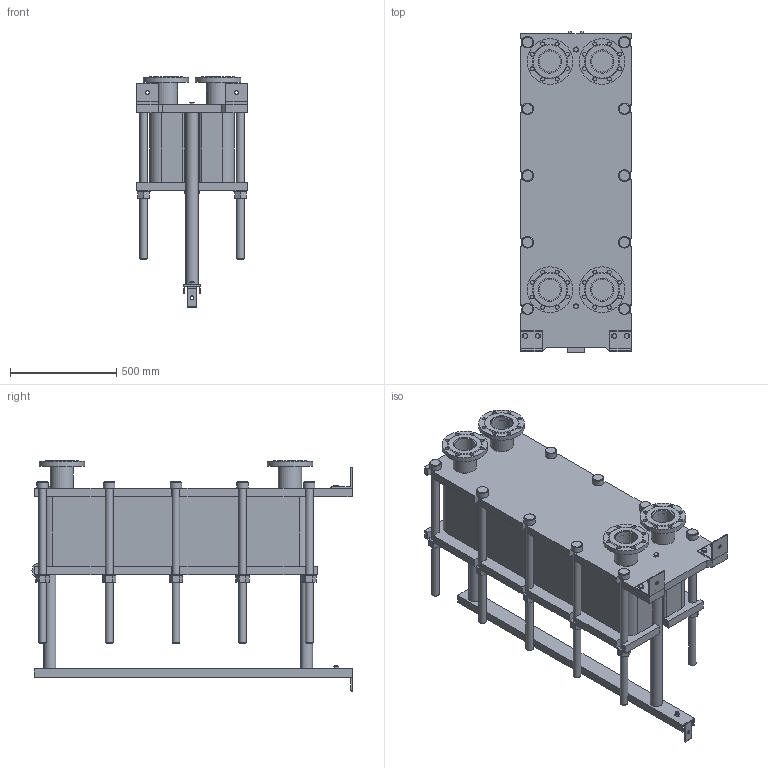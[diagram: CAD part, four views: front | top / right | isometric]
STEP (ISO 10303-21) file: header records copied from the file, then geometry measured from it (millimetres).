
FILE_DESCRIPTION(/* description */ (''),/* implementation_level */ '2;1');
FILE_NAME(/* name */ 'C:\Users\zhuro\Desktop\ENCO\TO\ЭН-04\ЭН-0,5-04-95-1.stp',/* time_stamp */ '2022-06-06T10:53:24+03:00',/* author */ ('zhuro'),/* organization */ (''),/* preprocessor_version */ 'ST-DEVELOPER v18.1',/* originating_system */ 'Autodesk Inventor 2022',/* authorisation */ '');
FILE_SCHEMA (('AUTOMOTIVE_DESIGN { 1 0 10303 214 3 1 1 }'));
Length unit declared in the file: millimetre
Products named in the file (1): ЭН-0,5-04-95-1
Bounding box: 520 x 1510 x 1087.5 mm (x, y, z)
Volume: 234731742.2 mm3; surface area: 8245311.5 mm2
Topology: 45 solids, 45 shells, 668 faces, 1611 edges, 1048 vertices
Faces by surface type: plane 457, cylinder 166, cone 39, torus 6
Full cylindrical faces by diameter (mm): 8 x4, 10 x2, 16 x8, 18 x35, 36 x25, 40 x2, 42 x1, 45 x4, 54 x10, 57 x2, 60 x10, 68 x2, 100 x4, 110 x8, 215 x4
Entity records: 23607 total; most frequent: CARTESIAN_POINT 7348, DIRECTION 3371, ORIENTED_EDGE 3142, EDGE_CURVE 1571, AXIS2_PLACEMENT_3D 1199, VERTEX_POINT 1044, LINE 973, VECTOR 973
